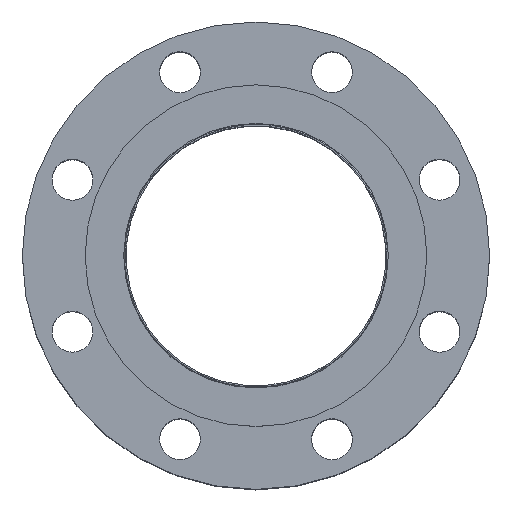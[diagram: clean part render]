
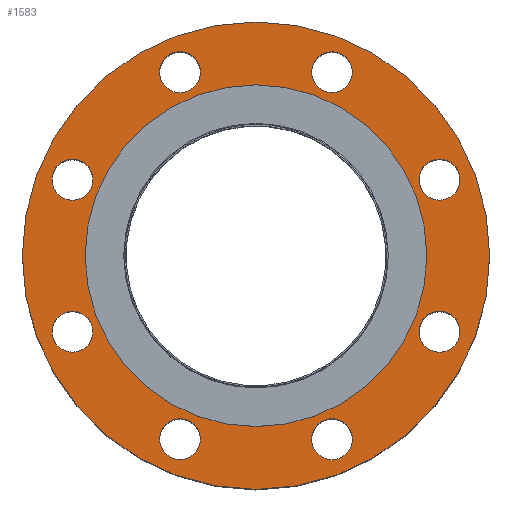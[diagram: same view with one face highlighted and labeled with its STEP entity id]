
A CAD part, top view. The second image highlights one B-rep face of the part: STEP entity #1583.
In plain terms, the highlighted planar face has unit normal (0, 0, 1).
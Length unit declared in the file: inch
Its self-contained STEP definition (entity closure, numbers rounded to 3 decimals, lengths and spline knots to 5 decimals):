
#84=FACE_BOUND('',#411,.T.);
#85=FACE_BOUND('',#412,.T.);
#86=FACE_BOUND('',#413,.T.);
#87=FACE_BOUND('',#414,.T.);
#88=FACE_BOUND('',#415,.T.);
#89=FACE_BOUND('',#416,.T.);
#90=FACE_BOUND('',#417,.T.);
#91=FACE_BOUND('',#418,.T.);
#92=FACE_BOUND('',#419,.T.);
#150=PLANE('',#1788);
#273=FACE_OUTER_BOUND('',#410,.T.);
#410=EDGE_LOOP('',(#1213));
#411=EDGE_LOOP('',(#1214));
#412=EDGE_LOOP('',(#1215));
#413=EDGE_LOOP('',(#1216));
#414=EDGE_LOOP('',(#1217));
#415=EDGE_LOOP('',(#1218));
#416=EDGE_LOOP('',(#1219));
#417=EDGE_LOOP('',(#1220));
#418=EDGE_LOOP('',(#1221));
#419=EDGE_LOOP('',(#1222));
#615=CIRCLE('',#1743,0.4375);
#617=CIRCLE('',#1746,0.4375);
#619=CIRCLE('',#1749,0.4375);
#621=CIRCLE('',#1752,0.4375);
#623=CIRCLE('',#1755,0.4375);
#625=CIRCLE('',#1758,0.4375);
#627=CIRCLE('',#1761,0.4375);
#629=CIRCLE('',#1764,0.4375);
#642=CIRCLE('',#1783,3.655);
#644=CIRCLE('',#1787,5.);
#803=VERTEX_POINT('',#2758);
#805=VERTEX_POINT('',#2764);
#807=VERTEX_POINT('',#2770);
#809=VERTEX_POINT('',#2776);
#811=VERTEX_POINT('',#2782);
#813=VERTEX_POINT('',#2788);
#815=VERTEX_POINT('',#2794);
#817=VERTEX_POINT('',#2800);
#828=VERTEX_POINT('',#2832);
#830=VERTEX_POINT('',#2839);
#939=EDGE_CURVE('',#803,#803,#615,.T.);
#942=EDGE_CURVE('',#805,#805,#617,.T.);
#945=EDGE_CURVE('',#807,#807,#619,.T.);
#948=EDGE_CURVE('',#809,#809,#621,.T.);
#951=EDGE_CURVE('',#811,#811,#623,.T.);
#954=EDGE_CURVE('',#813,#813,#625,.T.);
#957=EDGE_CURVE('',#815,#815,#627,.T.);
#960=EDGE_CURVE('',#817,#817,#629,.T.);
#976=EDGE_CURVE('',#828,#828,#642,.T.);
#978=EDGE_CURVE('',#830,#830,#644,.T.);
#1213=ORIENTED_EDGE('',*,*,#978,.T.);
#1214=ORIENTED_EDGE('',*,*,#939,.T.);
#1215=ORIENTED_EDGE('',*,*,#942,.T.);
#1216=ORIENTED_EDGE('',*,*,#945,.T.);
#1217=ORIENTED_EDGE('',*,*,#948,.T.);
#1218=ORIENTED_EDGE('',*,*,#951,.T.);
#1219=ORIENTED_EDGE('',*,*,#954,.T.);
#1220=ORIENTED_EDGE('',*,*,#957,.T.);
#1221=ORIENTED_EDGE('',*,*,#960,.T.);
#1222=ORIENTED_EDGE('',*,*,#976,.T.);
#1583=ADVANCED_FACE('',(#273,#84,#85,#86,#87,#88,#89,#90,#91,#92),#150,
 .T.);
#1743=AXIS2_PLACEMENT_3D('',#2759,#2079,#2080);
#1746=AXIS2_PLACEMENT_3D('',#2765,#2086,#2087);
#1749=AXIS2_PLACEMENT_3D('',#2771,#2093,#2094);
#1752=AXIS2_PLACEMENT_3D('',#2777,#2100,#2101);
#1755=AXIS2_PLACEMENT_3D('',#2783,#2107,#2108);
#1758=AXIS2_PLACEMENT_3D('',#2789,#2114,#2115);
#1761=AXIS2_PLACEMENT_3D('',#2795,#2121,#2122);
#1764=AXIS2_PLACEMENT_3D('',#2801,#2128,#2129);
#1783=AXIS2_PLACEMENT_3D('',#2834,#2169,#2170);
#1787=AXIS2_PLACEMENT_3D('',#2840,#2177,#2178);
#1788=AXIS2_PLACEMENT_3D('',#2842,#2180,#2181);
#2079=DIRECTION('center_axis',(0.,0.,-1.));
#2080=DIRECTION('ref_axis',(0.707,-0.707,0.));
#2086=DIRECTION('center_axis',(0.,0.,-1.));
#2087=DIRECTION('ref_axis',(0.,-1.,0.));
#2093=DIRECTION('center_axis',(0.,0.,-1.));
#2094=DIRECTION('ref_axis',(-0.707,-0.707,0.));
#2100=DIRECTION('center_axis',(0.,0.,-1.));
#2101=DIRECTION('ref_axis',(-1.,0.,0.));
#2107=DIRECTION('center_axis',(0.,0.,-1.));
#2108=DIRECTION('ref_axis',(-0.707,0.707,0.));
#2114=DIRECTION('center_axis',(0.,0.,-1.));
#2115=DIRECTION('ref_axis',(0.,1.,0.));
#2121=DIRECTION('center_axis',(0.,0.,-1.));
#2122=DIRECTION('ref_axis',(0.707,0.707,0.));
#2128=DIRECTION('center_axis',(0.,0.,-1.));
#2129=DIRECTION('ref_axis',(1.,0.,0.));
#2169=DIRECTION('center_axis',(0.,0.,-1.));
#2170=DIRECTION('ref_axis',(0.,1.,0.));
#2177=DIRECTION('center_axis',(0.,0.,1.));
#2178=DIRECTION('ref_axis',(1.,0.,0.));
#2180=DIRECTION('center_axis',(0.,0.,1.));
#2181=DIRECTION('ref_axis',(1.,0.,0.));
#2758=CARTESIAN_POINT('',(1.31705,4.23585,0.44));
#2759=CARTESIAN_POINT('Origin',(1.6264,3.92649,0.44));
#2764=CARTESIAN_POINT('',(3.92649,2.0639,0.44));
#2765=CARTESIAN_POINT('Origin',(3.92649,1.6264,0.44));
#2770=CARTESIAN_POINT('',(4.23585,-1.31705,0.44));
#2771=CARTESIAN_POINT('Origin',(3.92649,-1.6264,0.44));
#2776=CARTESIAN_POINT('',(2.0639,-3.92649,0.44));
#2777=CARTESIAN_POINT('Origin',(1.6264,-3.92649,0.44));
#2782=CARTESIAN_POINT('',(-1.31705,-4.23585,0.44));
#2783=CARTESIAN_POINT('Origin',(-1.6264,-3.92649,0.44));
#2788=CARTESIAN_POINT('',(-3.92649,-2.0639,0.44));
#2789=CARTESIAN_POINT('Origin',(-3.92649,-1.6264,0.44));
#2794=CARTESIAN_POINT('',(-4.23585,1.31705,0.44));
#2795=CARTESIAN_POINT('Origin',(-3.92649,1.6264,0.44));
#2800=CARTESIAN_POINT('',(-2.0639,3.92649,0.44));
#2801=CARTESIAN_POINT('Origin',(-1.6264,3.92649,0.44));
#2832=CARTESIAN_POINT('',(0.,-3.655,0.44));
#2834=CARTESIAN_POINT('Origin',(0.,0.,0.44));
#2839=CARTESIAN_POINT('',(0.,-5.,0.44));
#2840=CARTESIAN_POINT('Origin',(0.,0.,0.44));
#2842=CARTESIAN_POINT('Origin',(0.,2.83,0.44));
